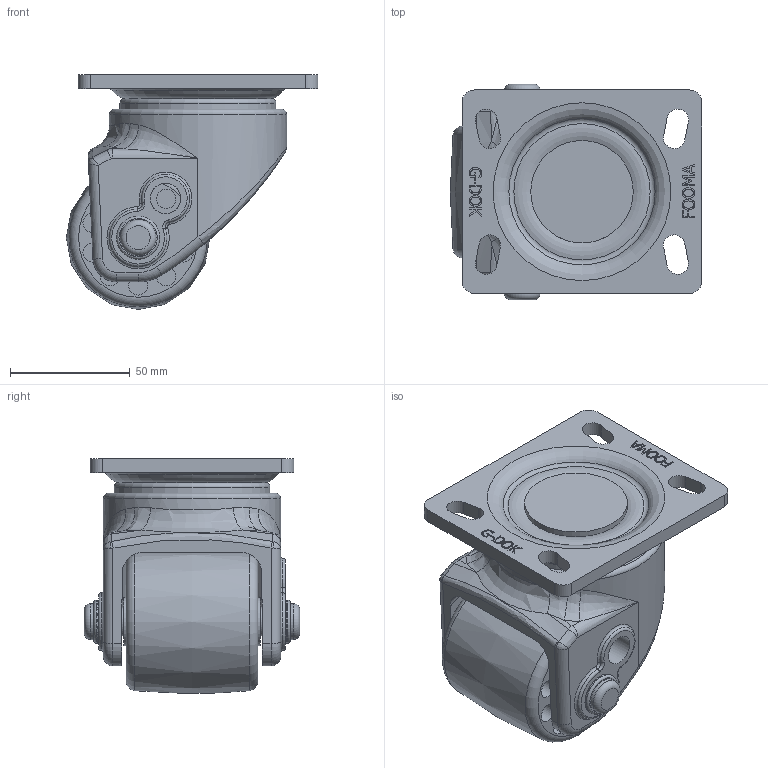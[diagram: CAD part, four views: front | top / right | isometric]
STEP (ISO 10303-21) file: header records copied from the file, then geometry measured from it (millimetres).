
FILE_DESCRIPTION(/* description */ (' '),/* implementation_level */ '2;1');
FILE_NAME(/* name */ 'E:\홈피용도면\홈페이지용3d\GLH-60-ASF-PEU\GLH-60-ASF-PEU.stp',/* time_stamp */ '2017-01-25T17:47:23+09:00',/* author */ ('Administrator'),/* organization */ (' '),/* preprocessor_version */ 'ST-DEVELOPER v16.5',/* originating_system */ 'Autodesk Inventor 2017',/* authorisation */ ' ');
FILE_SCHEMA (('AUTOMOTIVE_DESIGN { 1 0 10303 214 3 1 1 }'));
Length unit declared in the file: millimetre
Products named in the file (1): GLH-60-ASF-PEU
Bounding box: 105 x 90 x 98.12 mm (x, y, z)
Volume: 345184.6 mm3; surface area: 64457 mm2
Topology: 1 solids, 2 shells, 461 faces, 1140 edges, 729 vertices
Faces by surface type: plane 167, bspline 157, cylinder 63, torus 30, cone 24, sphere 20
Full cylindrical faces by diameter (mm): 7.8 x1, 8 x20, 11.95 x2, 12.2 x2, 12.676 x1, 13 x2, 15 x2, 18 x2, 20 x2, 42.8 x1, 65.14 x1, 74 x1
Entity records: 22782 total; most frequent: CARTESIAN_POINT 12747, ORIENTED_EDGE 2122, DIRECTION 1840, EDGE_CURVE 1061, AXIS2_PLACEMENT_3D 728, VERTEX_POINT 713, EDGE_LOOP 584, FACE_OUTER_BOUND 461
